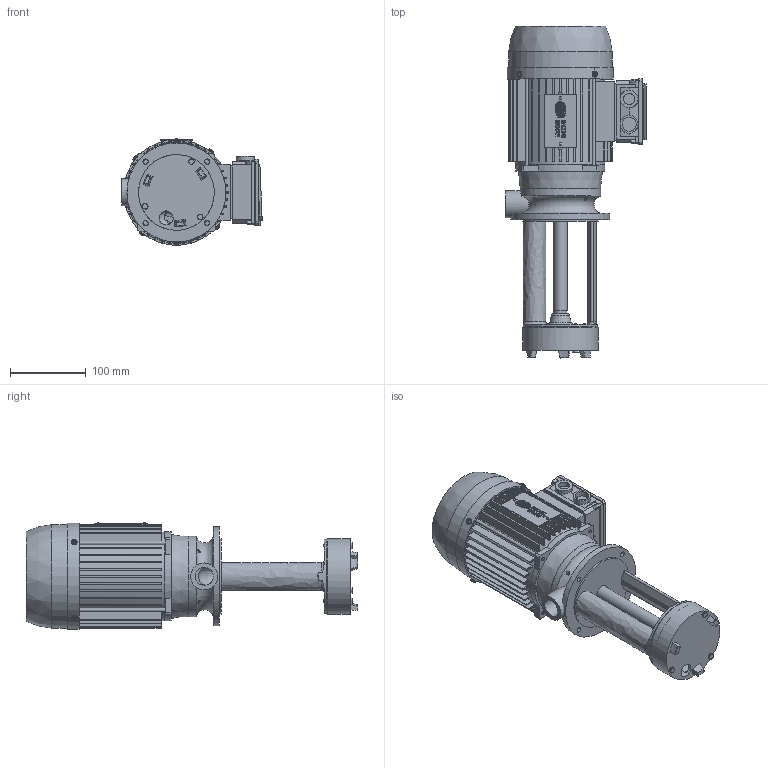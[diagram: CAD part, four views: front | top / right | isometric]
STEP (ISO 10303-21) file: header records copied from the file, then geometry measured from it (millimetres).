
FILE_DESCRIPTION(/* description */ (''),/* implementation_level */ '2;1');
FILE_NAME(/* name */ 'T:\PROGETTI\2019 - REVISIONE CATALOGHI\STEP\EPC 71 B\YT71EPB++180.stp',/* time_stamp */ '2019-05-22T15:12:53+02:00',/* author */ ('cboccato'),/* organization */ (''),/* preprocessor_version */ 'ST-DEVELOPER v17.2',/* originating_system */ 'Autodesk Inventor 2019',/* authorisation */ '');
FILE_SCHEMA (('CONFIG_CONTROL_DESIGN'));
Products named in the file (1): YT71EPB++180_iLogic_Shrinkwrap
Bounding box: 185.5 x 438.5 x 141.1 mm (x, y, z)
Volume: 1315297.7 mm3; surface area: 604412.1 mm2
Topology: 14 solids, 28 shells, 2757 faces, 7840 edges, 5188 vertices
Faces by surface type: plane 1601, cylinder 715, cone 228, bspline 109, torus 93, sphere 11
Full cylindrical faces by diameter (mm): 2 x2, 2.53 x2, 3 x9, 3.5 x4, 3.621 x4, 3.9 x4, 4 x3, 4.134 x4, 4.3 x4, 4.33 x8, 4.5 x3, 4.6 x4, 5 x4, 5.5 x4, 6 x4, 6.03 x3, 7 x4, 7.2 x4, 7.75 x1, 9.6 x4, 12 x1, 15 x2, 16.6 x1, 16.8 x1, 16.99 x1, 17 x2, 17.4 x1, 17.5 x1, 18 x2, 18.5 x2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
Entity records: 102939 total; most frequent: CARTESIAN_POINT 28438, ORIENTED_EDGE 15706, DIRECTION 14143, EDGE_CURVE 7853, VERTEX_POINT 5212, AXIS2_PLACEMENT_3D 4913, LINE 4317, VECTOR 4317
